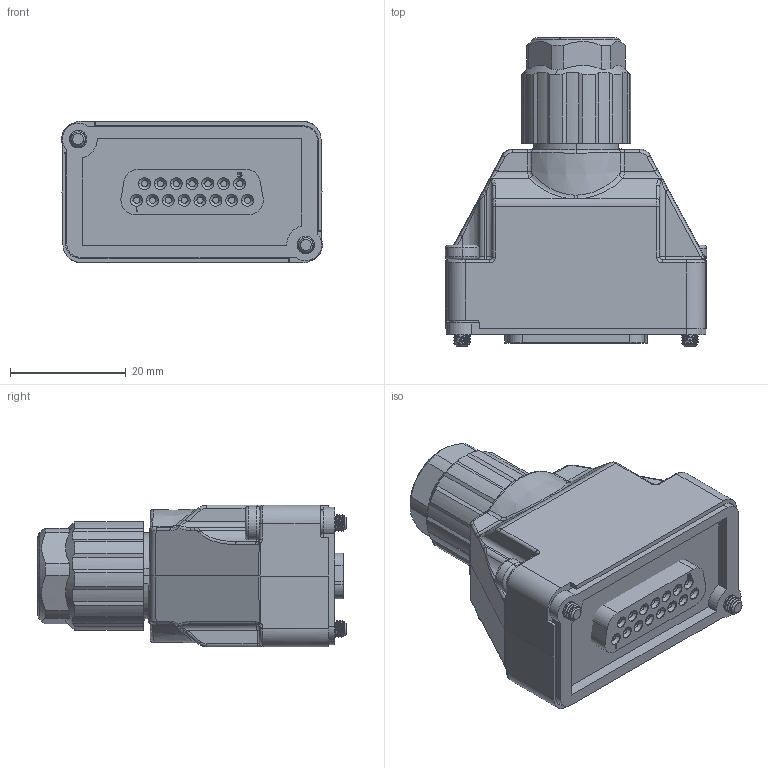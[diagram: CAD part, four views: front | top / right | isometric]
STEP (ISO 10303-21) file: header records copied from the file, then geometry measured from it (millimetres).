
FILE_DESCRIPTION (( 'STEP AP203' ), '1' );
FILE_NAME ('24D001&24D201&24D100 220425.STEP', '2022-04-25T02:07:11', ( '' ), ( '' ), 'SwSTEP 2.0', 'SolidWorks 2016', '' );
FILE_SCHEMA (( 'CONFIG_CONTROL_DESIGN' ));
Length unit declared in the file: millimetre
Products named in the file (2): 錨璃10^24D201&24D100 220425; 24D001&24D201&24D100 220425
Assembly tree (1 placements, depth 2):
  24D001&24D201&24D100 220425
    錨璃10^24D201&24D100 220425
Bounding box: 45.2 x 53.42 x 24.5 mm (x, y, z)
Volume: 32255.2 mm3; surface area: 13890.5 mm2
Topology: 7 solids, 7 shells, 1133 faces, 2910 edges, 1838 vertices
Faces by surface type: cylinder 459, plane 381, bspline 191, cone 67, torus 27, sphere 8
Entity records: 78814 total; most frequent: CARTESIAN_POINT 53836, ORIENTED_EDGE 5820, DIRECTION 4041, EDGE_CURVE 2910, VERTEX_POINT 1838, AXIS2_PLACEMENT_3D 1362, LINE 1317, VECTOR 1317
